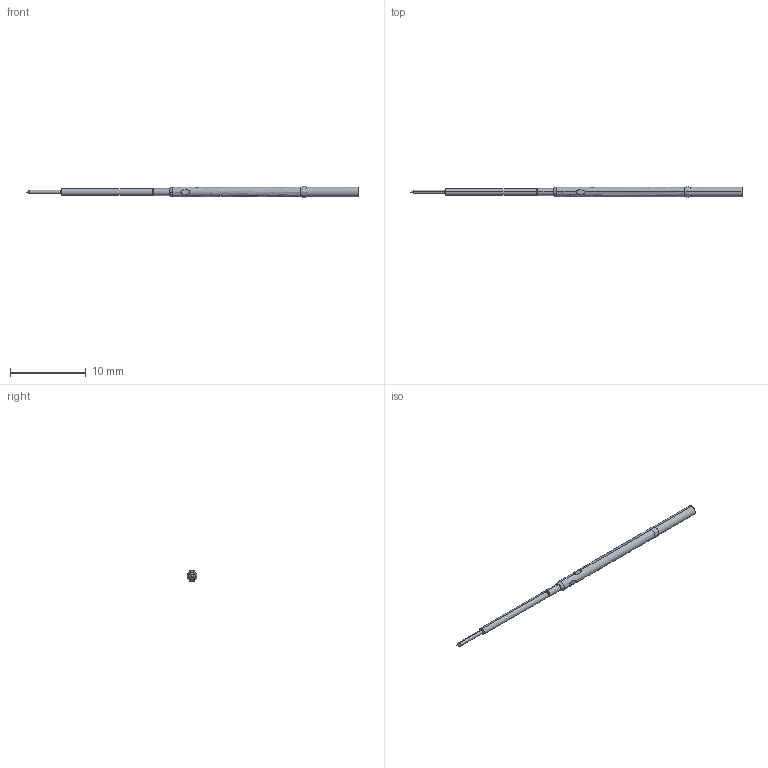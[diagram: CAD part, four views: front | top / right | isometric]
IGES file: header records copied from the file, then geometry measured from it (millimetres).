
Start section: SolidWorks IGES file using analytic representation for surfaces
Global section: file name: Z:\probe solid model mockups\Solidworks models\DER-075\DER-075B.IGS; native system: SolidWorks 2006 by SolidWorks Corporation; preprocessor: SolidWorks 2006 by SolidWorks Corporation; author: tsakatani; date: 071218.084742; units: inch
Bounding box: 43.94 x 1.46 x 1.47 mm (x, y, z)
Surface area: 236.6 mm2 (no closed solid volume)
Topology: 0 solids, 0 shells, 38 faces, 378 edges, 376 vertices
Faces by surface type: revolution 31, bspline 7
